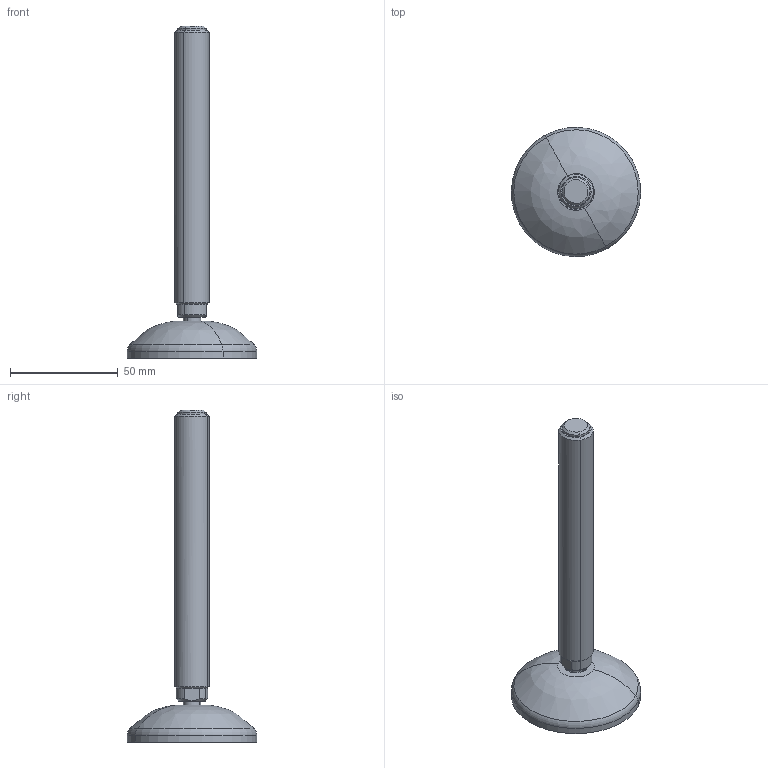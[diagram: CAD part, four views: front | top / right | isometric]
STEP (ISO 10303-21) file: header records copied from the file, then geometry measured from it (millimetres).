
FILE_DESCRIPTION(('CATIA V5 STEP Exchange'),'2;1');
FILE_NAME('X:\CODICI MOVEX\3D per clienti\3D definitivi\Part 900\P90802_01.stp','2016-08-05T14:21:24+00:00',('none'),('none'),'Version 5-6 Release 2012','CATIA V5 STEP AP203','none');
FILE_SCHEMA(('CONFIG_CONTROL_DESIGN'));
Length unit declared in the file: millimetre
Products named in the file (1): P90802_01
Assembly tree (2 placements, depth 2):
  P90802_01
    #58
    #18968
Bounding box: 59.98 x 59.98 x 154 mm (x, y, z)
Volume: 45049.1 mm3; surface area: 22326 mm2
Topology: 2 solids, 4 shells, 572 faces, 1628 edges, 1061 vertices
Faces by surface type: plane 465, torus 32, sphere 24, cylinder 22, revolution 19, cone 10
Entity records: 19745 total; most frequent: CARTESIAN_POINT 6465, ORIENTED_EDGE 3232, DIRECTION 1949, EDGE_CURVE 1616, VERTEX_POINT 1061, VECTOR 767, LINE 767, B_SPLINE_CURVE_WITH_KNOTS 707
